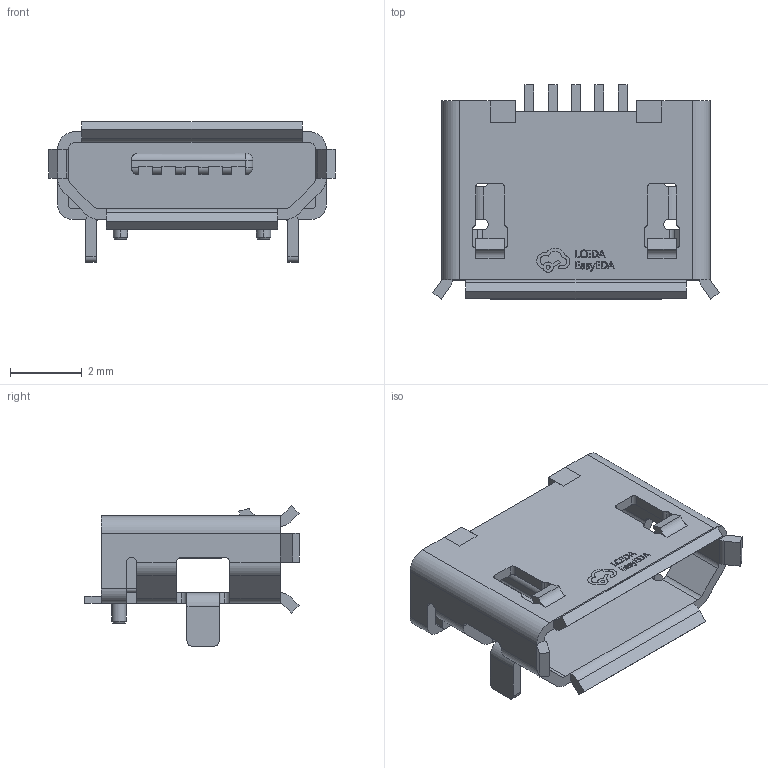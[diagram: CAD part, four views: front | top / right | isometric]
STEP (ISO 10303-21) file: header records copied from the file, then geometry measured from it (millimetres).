
FILE_DESCRIPTION (( 'STEP AP214' ), '1' );
FILE_NAME ('MICRO-USB-SMD_U254-051T-4BH83-S1S.step', '2022-07-07T03:04:15', ( '' ), ( '' ), 'SwSTEP 2.0', 'SolidWorks 2020', '' );
FILE_SCHEMA (( 'AUTOMOTIVE_DESIGN' ));
Length unit declared in the file: millimetre
Products named in the file (1): MICRO-USB-SMD_U254-051T-4BH83-S1S
Bounding box: 8 x 5.98 x 3.92 mm (x, y, z)
Volume: 40.2 mm3; surface area: 265.6 mm2
Topology: 2 solids, 2 shells, 577 faces, 1589 edges, 1042 vertices
Faces by surface type: plane 349, bspline 112, cylinder 110, cone 4, sphere 2
Entity records: 25204 total; most frequent: CARTESIAN_POINT 5341, ORIENTED_EDGE 3174, DIRECTION 2505, EDGE_CURVE 1587, VECTOR 1125, LINE 1125, VERTEX_POINT 1042, AXIS2_PLACEMENT_3D 690
